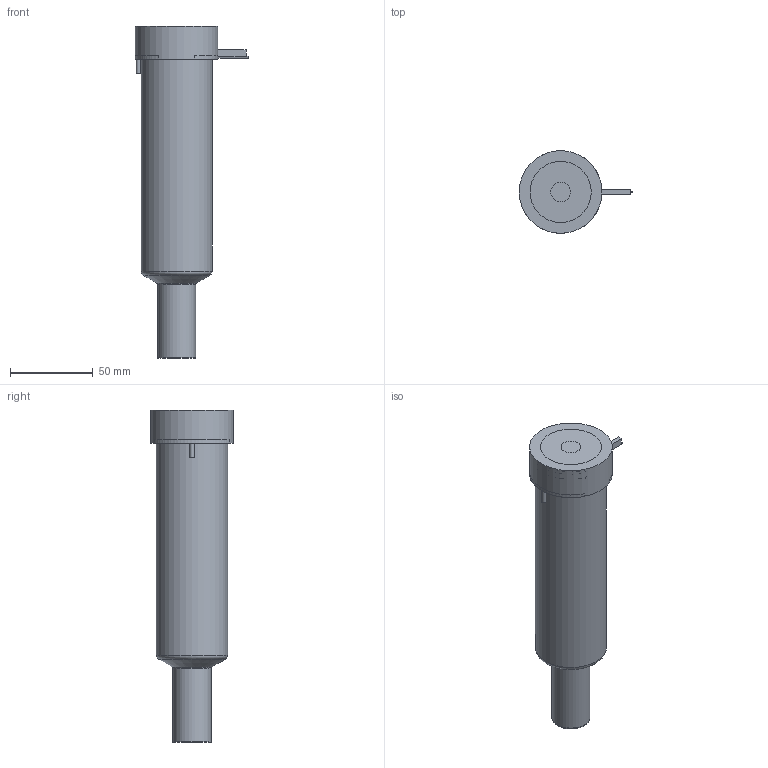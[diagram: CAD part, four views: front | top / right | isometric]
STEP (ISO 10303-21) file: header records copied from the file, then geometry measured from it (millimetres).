
FILE_DESCRIPTION(/* description */ (''),/* implementation_level */ '2;1');
FILE_NAME(/* name */ 'BXYCN27145N3F_250C_a',/* time_stamp */ '2016-02-18T14:53:27+13:00',/* author */ (''),/* organization */ (''),/* preprocessor_version */ 'ST-DEVELOPER v9',/* originating_system */ 'UGS - NX 4.0',/* authorisation */ '');
FILE_SCHEMA (('CONFIG_CONTROL_DESIGN'));
Length unit declared in the file: millimetre
Products named in the file (1): matt5E57pynq
Bounding box: 68.6 x 50 x 200.8 mm (x, y, z)
Volume: 449427 mm3; surface area: 56648 mm2
Topology: 2 solids, 2 shells, 66 faces, 149 edges, 97 vertices
Faces by surface type: plane 29, cylinder 21, torus 8, cone 6, bspline 1, sphere 1
Full cylindrical faces by diameter (mm): 1 x2, 2.5 x1, 3 x1, 12 x2, 22.61 x1, 22.995 x2, 27.5 x1, 38.1 x1, 43 x1, 50 x1
Entity records: 2056 total; most frequent: CARTESIAN_POINT 588, DIRECTION 299, ORIENTED_EDGE 242, AXIS2_PLACEMENT_3D 128, EDGE_CURVE 121, EDGE_LOOP 100, VERTEX_POINT 91, ADVANCED_FACE 66
